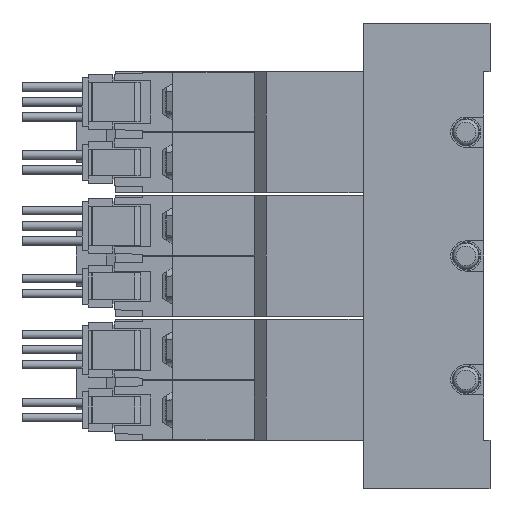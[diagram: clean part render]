
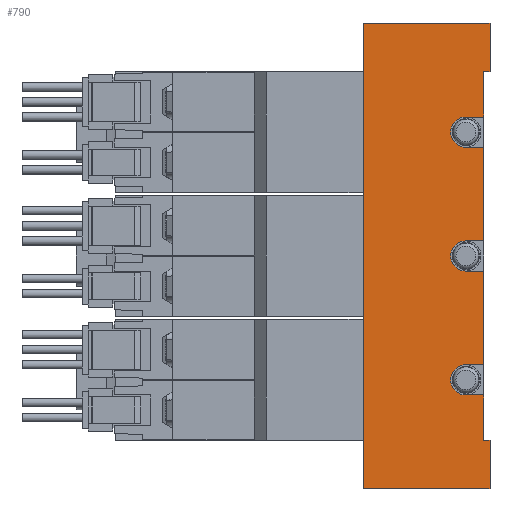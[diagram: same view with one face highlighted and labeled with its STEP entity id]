
A CAD part, left-side view. The second image highlights one B-rep face of the part: STEP entity #790.
In plain terms, the highlighted planar face has unit normal (-1, 0, 0) as drawn and (1, 0, 0) by its records, which use the part's own axes.
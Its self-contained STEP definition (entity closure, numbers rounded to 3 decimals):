
#790=ADVANCED_FACE('',(#1686),#1687,.F.);
#1686=FACE_OUTER_BOUND('',#2630,.T.);
#1687=PLANE('',#2631);
#2630=EDGE_LOOP('',(#5858,#5859,#5860,#5861,#5862,#5863,#5864,#5865,#5866,#5867,#5868,#5869,#5870,#5871,#5872,#5873,#5874,#5875,#5876,#5877));
#2631=AXIS2_PLACEMENT_3D('',#5878,#5879,#5880);
#5858=ORIENTED_EDGE('',*,*,#7062,.T.);
#5859=ORIENTED_EDGE('',*,*,#7052,.T.);
#5860=ORIENTED_EDGE('',*,*,#7032,.F.);
#5861=ORIENTED_EDGE('',*,*,#7069,.F.);
#5862=ORIENTED_EDGE('',*,*,#6957,.T.);
#5863=ORIENTED_EDGE('',*,*,#7070,.T.);
#5864=ORIENTED_EDGE('',*,*,#7071,.T.);
#5865=ORIENTED_EDGE('',*,*,#6980,.F.);
#5866=ORIENTED_EDGE('',*,*,#7047,.F.);
#5867=ORIENTED_EDGE('',*,*,#6975,.F.);
#5868=ORIENTED_EDGE('',*,*,#7072,.T.);
#5869=ORIENTED_EDGE('',*,*,#6993,.F.);
#5870=ORIENTED_EDGE('',*,*,#7049,.F.);
#5871=ORIENTED_EDGE('',*,*,#7003,.F.);
#5872=ORIENTED_EDGE('',*,*,#7073,.T.);
#5873=ORIENTED_EDGE('',*,*,#6985,.F.);
#5874=ORIENTED_EDGE('',*,*,#7023,.F.);
#5875=ORIENTED_EDGE('',*,*,#6998,.F.);
#5876=ORIENTED_EDGE('',*,*,#7074,.T.);
#5877=ORIENTED_EDGE('',*,*,#6967,.T.);
#5878=CARTESIAN_POINT('',(17.5,1.0,38.5));
#5879=DIRECTION('',(-1.0,0.0,0.0));
#5880=DIRECTION('',(0.0,0.0,1.0));
#6957=EDGE_CURVE('',#8616,#8617,#8618,.T.);
#6967=EDGE_CURVE('',#8625,#8634,#8636,.T.);
#6975=EDGE_CURVE('',#8651,#8652,#8653,.T.);
#6980=EDGE_CURVE('',#8661,#8662,#8663,.T.);
#6985=EDGE_CURVE('',#8671,#8672,#8673,.T.);
#6993=EDGE_CURVE('',#8685,#8686,#8687,.T.);
#6998=EDGE_CURVE('',#8695,#8696,#8697,.T.);
#7003=EDGE_CURVE('',#8705,#8706,#8707,.T.);
#7023=EDGE_CURVE('',#8696,#8671,#8738,.T.);
#7032=EDGE_CURVE('',#8754,#8749,#8756,.T.);
#7047=EDGE_CURVE('',#8652,#8661,#8782,.T.);
#7049=EDGE_CURVE('',#8706,#8685,#8784,.T.);
#7052=EDGE_CURVE('',#8787,#8749,#8788,.T.);
#7062=EDGE_CURVE('',#8634,#8787,#8804,.T.);
#7069=EDGE_CURVE('',#8616,#8754,#8815,.T.);
#7070=EDGE_CURVE('',#8617,#8816,#8817,.T.);
#7071=EDGE_CURVE('',#8816,#8662,#8818,.T.);
#7072=EDGE_CURVE('',#8651,#8686,#8819,.T.);
#7073=EDGE_CURVE('',#8705,#8672,#8820,.T.);
#7074=EDGE_CURVE('',#8695,#8625,#8821,.T.);
#8616=VERTEX_POINT('',#11366);
#8617=VERTEX_POINT('',#11367);
#8618=LINE('',#11368,#11369);
#8625=VERTEX_POINT('',#11378);
#8634=VERTEX_POINT('',#11391);
#8636=LINE('',#11394,#11395);
#8651=VERTEX_POINT('',#11498);
#8652=VERTEX_POINT('',#11499);
#8653=LINE('',#11500,#11501);
#8661=VERTEX_POINT('',#11513);
#8662=VERTEX_POINT('',#11514);
#8663=LINE('',#11515,#11516);
#8671=VERTEX_POINT('',#11528);
#8672=VERTEX_POINT('',#11529);
#8673=LINE('',#11530,#11531);
#8685=VERTEX_POINT('',#11547);
#8686=VERTEX_POINT('',#11548);
#8687=LINE('',#11549,#11550);
#8695=VERTEX_POINT('',#11562);
#8696=VERTEX_POINT('',#11563);
#8697=LINE('',#11564,#11565);
#8705=VERTEX_POINT('',#11577);
#8706=VERTEX_POINT('',#11578);
#8707=LINE('',#11579,#11580);
#8738=CIRCLE('',#11616,2.5);
#8749=VERTEX_POINT('',#11627);
#8754=VERTEX_POINT('',#11634);
#8756=LINE('',#11637,#11638);
#8782=CIRCLE('',#11670,2.5);
#8784=CIRCLE('',#11673,2.5);
#8787=VERTEX_POINT('',#11677);
#8788=LINE('',#11678,#11679);
#8804=LINE('',#11700,#11701);
#8815=LINE('',#11713,#11714);
#8816=VERTEX_POINT('',#11715);
#8817=LINE('',#11716,#11717);
#8818=LINE('',#11718,#11719);
#8819=LINE('',#11720,#11721);
#8820=LINE('',#11722,#11723);
#8821=LINE('',#11724,#11725);
#11366=CARTESIAN_POINT('',(17.5,0.0,38.5));
#11367=CARTESIAN_POINT('',(17.5,0.0,30.5));
#11368=CARTESIAN_POINT('',(17.5,0.0,38.5));
#11369=VECTOR('',#12853,1.0);
#11378=CARTESIAN_POINT('',(17.5,1.0,-30.5));
#11391=CARTESIAN_POINT('',(17.5,0.0,-30.5));
#11394=CARTESIAN_POINT('',(17.5,4.0,-30.5));
#11395=VECTOR('',#12867,1.0);
#11498=CARTESIAN_POINT('',(17.5,1.0,18.0));
#11499=CARTESIAN_POINT('',(17.5,4.0,18.0));
#11500=CARTESIAN_POINT('',(17.5,1.0,18.0));
#11501=VECTOR('',#12883,1.0);
#11513=CARTESIAN_POINT('',(17.5,4.0,23.0));
#11514=CARTESIAN_POINT('',(17.5,1.0,23.0));
#11515=CARTESIAN_POINT('',(17.5,1.0,23.0));
#11516=VECTOR('',#12888,1.0);
#11528=CARTESIAN_POINT('',(17.5,4.0,-18.0));
#11529=CARTESIAN_POINT('',(17.5,1.0,-18.0));
#11530=CARTESIAN_POINT('',(17.5,1.0,-18.0));
#11531=VECTOR('',#12893,1.0);
#11547=CARTESIAN_POINT('',(17.5,4.0,2.5));
#11548=CARTESIAN_POINT('',(17.5,1.0,2.5));
#11549=CARTESIAN_POINT('',(17.5,1.0,2.5));
#11550=VECTOR('',#12904,1.0);
#11562=CARTESIAN_POINT('',(17.5,1.0,-23.0));
#11563=CARTESIAN_POINT('',(17.5,4.0,-23.0));
#11564=CARTESIAN_POINT('',(17.5,1.0,-23.0));
#11565=VECTOR('',#12909,1.0);
#11577=CARTESIAN_POINT('',(17.5,1.0,-2.5));
#11578=CARTESIAN_POINT('',(17.5,4.0,-2.5));
#11579=CARTESIAN_POINT('',(17.5,1.0,-2.5));
#11580=VECTOR('',#12914,1.0);
#11616=AXIS2_PLACEMENT_3D('',#12962,#12963,#12964);
#11627=CARTESIAN_POINT('',(17.5,21.0,-38.5));
#11634=CARTESIAN_POINT('',(17.5,21.0,38.5));
#11637=CARTESIAN_POINT('',(17.5,21.0,38.5));
#11638=VECTOR('',#12983,1.0);
#11670=AXIS2_PLACEMENT_3D('',#13014,#13015,#13016);
#11673=AXIS2_PLACEMENT_3D('',#13018,#13019,#13020);
#11677=CARTESIAN_POINT('',(17.5,0.0,-38.5));
#11678=CARTESIAN_POINT('',(17.5,1.0,-38.5));
#11679=VECTOR('',#13025,1.0);
#11700=CARTESIAN_POINT('',(17.5,0.0,-30.5));
#11701=VECTOR('',#13043,1.0);
#11713=CARTESIAN_POINT('',(17.5,1.0,38.5));
#11714=VECTOR('',#13060,1.0);
#11715=CARTESIAN_POINT('',(17.5,1.0,30.5));
#11716=CARTESIAN_POINT('',(17.5,0.0,30.5));
#11717=VECTOR('',#13061,1.0);
#11718=CARTESIAN_POINT('',(17.5,1.0,38.5));
#11719=VECTOR('',#13062,1.0);
#11720=CARTESIAN_POINT('',(17.5,1.0,38.5));
#11721=VECTOR('',#13063,1.0);
#11722=CARTESIAN_POINT('',(17.5,1.0,38.5));
#11723=VECTOR('',#13064,1.0);
#11724=CARTESIAN_POINT('',(17.5,1.0,38.5));
#11725=VECTOR('',#13065,1.0);
#12853=DIRECTION('',(0.0,0.0,-1.0));
#12867=DIRECTION('',(0.0,-1.0,0.0));
#12883=DIRECTION('',(0.0,1.0,0.0));
#12888=DIRECTION('',(0.0,-1.0,0.0));
#12893=DIRECTION('',(0.0,-1.0,0.0));
#12904=DIRECTION('',(0.0,-1.0,0.0));
#12909=DIRECTION('',(0.0,1.0,0.0));
#12914=DIRECTION('',(0.0,1.0,0.0));
#12962=CARTESIAN_POINT('',(17.5,4.0,-20.5));
#12963=DIRECTION('',(1.0,0.0,-0.0));
#12964=DIRECTION('',(0.0,0.0,1.0));
#12983=DIRECTION('',(0.0,0.0,-1.0));
#13014=CARTESIAN_POINT('',(17.5,4.0,20.5));
#13015=DIRECTION('',(1.0,0.0,-0.0));
#13016=DIRECTION('',(0.0,0.0,1.0));
#13018=CARTESIAN_POINT('',(17.5,4.0,0.0));
#13019=DIRECTION('',(1.0,0.0,-0.0));
#13020=DIRECTION('',(0.0,0.0,1.0));
#13025=DIRECTION('',(0.0,1.0,0.0));
#13043=DIRECTION('',(0.0,0.0,-1.0));
#13060=DIRECTION('',(0.0,1.0,0.0));
#13061=DIRECTION('',(0.0,1.0,0.0));
#13062=DIRECTION('',(0.0,0.0,-1.0));
#13063=DIRECTION('',(0.0,0.0,-1.0));
#13064=DIRECTION('',(0.0,0.0,-1.0));
#13065=DIRECTION('',(0.0,0.0,-1.0));
